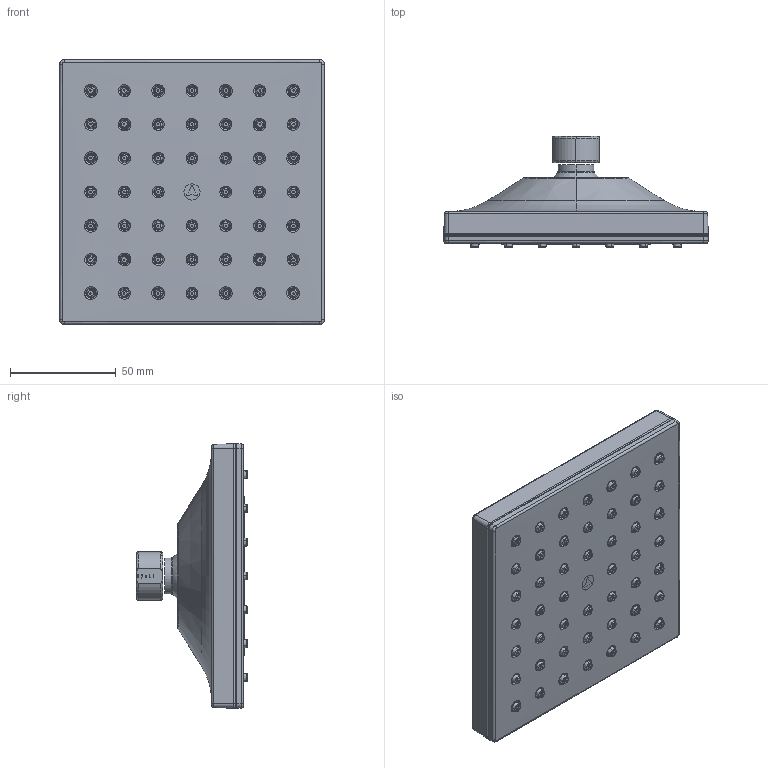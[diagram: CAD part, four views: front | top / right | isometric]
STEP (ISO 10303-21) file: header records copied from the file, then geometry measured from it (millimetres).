
FILE_DESCRIPTION (( 'STEP AP214' ), '1' );
FILE_NAME ('482SHSQ.STEP', '2025-01-07T07:25:51', ( '' ), ( '' ), 'SwSTEP 2.0', 'SolidWorks 2023', '' );
FILE_SCHEMA (( 'AUTOMOTIVE_DESIGN' ));
Products named in the file (1): 482SHSQ
Bounding box: 124.96 x 52.5 x 124.96 mm (x, y, z)
Surface area: 58613.5 mm2 (no closed solid volume)
Topology: 0 solids, 89 shells, 956 faces, 4306 edges, 3417 vertices
Faces by surface type: bspline 420, cone 274, plane 175, torus 49, cylinder 36, sphere 2
Entity records: 95925 total; most frequent: CARTESIAN_POINT 65868, ORIENTED_EDGE 5978, EDGE_CURVE 4301, DIRECTION 4270, VERTEX_POINT 3414, LINE 2124, VECTOR 2124, B_SPLINE_CURVE_WITH_KNOTS 1537
